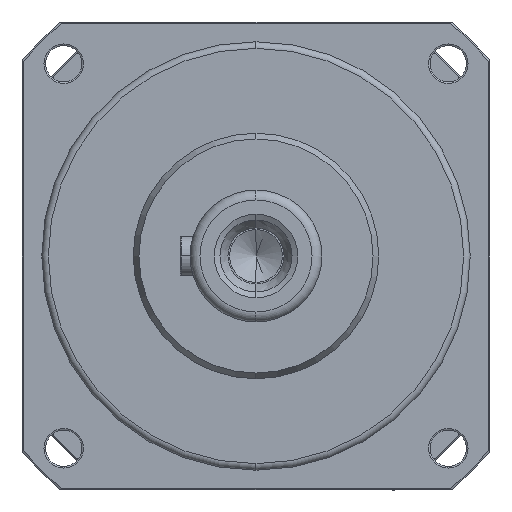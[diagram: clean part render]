
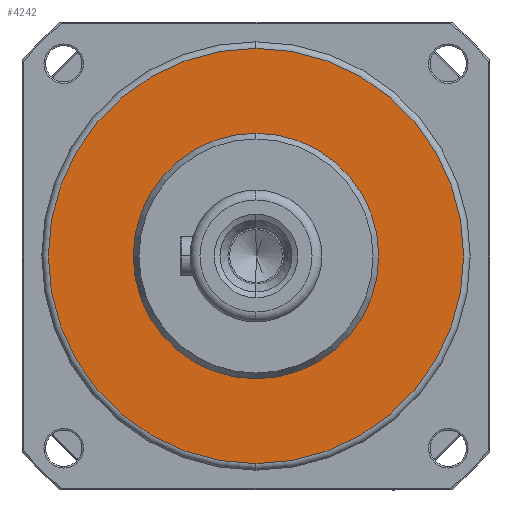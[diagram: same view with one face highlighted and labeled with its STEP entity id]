
A CAD part, left-side view. The second image highlights one B-rep face of the part: STEP entity #4242.
In plain terms, the highlighted planar face has unit normal (-1, 0, 0).
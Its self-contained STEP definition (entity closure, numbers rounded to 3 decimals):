
#423 = VERTEX_POINT ( 'NONE', #6996 ) ;
#1061 = DIRECTION ( 'NONE',  ( -1., 0., 0. ) ) ;
#1117 = CIRCLE ( 'NONE', #9494, 37.25 ) ;
#1197 = DIRECTION ( 'NONE',  ( 1., 0., 0. ) ) ;
#1305 = EDGE_LOOP ( 'NONE', ( #5215, #2292 ) ) ;
#1768 = CARTESIAN_POINT ( 'NONE',  ( -87.98, 18.361, 63. ) ) ;
#1931 = DIRECTION ( 'NONE',  ( 0., 0., -1. ) ) ;
#2019 = CARTESIAN_POINT ( 'NONE',  ( -87.98, 18.361, 0. ) ) ;
#2046 = CIRCLE ( 'NONE', #8914, 63. ) ;
#2292 = ORIENTED_EDGE ( 'NONE', *, *, #11292, .F. ) ;
#2471 = FACE_OUTER_BOUND ( 'NONE', #10551, .T. ) ;
#2771 = ORIENTED_EDGE ( 'NONE', *, *, #3067, .T. ) ;
#3067 = EDGE_CURVE ( 'NONE', #423, #7478, #10399, .T. ) ;
#3782 = EDGE_CURVE ( 'NONE', #5235, #4492, #1117, .T. ) ;
#3975 = CARTESIAN_POINT ( 'NONE',  ( -87.98, 18.361, 0. ) ) ;
#4242 = ADVANCED_FACE ( 'NONE', ( #2471, #4453 ), #9365, .F. ) ;
#4316 = AXIS2_PLACEMENT_3D ( 'NONE', #2019, #7339, #10960 ) ;
#4453 = FACE_BOUND ( 'NONE', #1305, .T. ) ;
#4492 = VERTEX_POINT ( 'NONE', #8833 ) ;
#4899 = DIRECTION ( 'NONE',  ( -1., 0., 0. ) ) ;
#5215 = ORIENTED_EDGE ( 'NONE', *, *, #3782, .F. ) ;
#5235 = VERTEX_POINT ( 'NONE', #5830 ) ;
#5655 = CARTESIAN_POINT ( 'NONE',  ( -87.98, 18.361, 0. ) ) ;
#5675 = CARTESIAN_POINT ( 'NONE',  ( -87.98, 55.611, 0. ) ) ;
#5830 = CARTESIAN_POINT ( 'NONE',  ( -87.98, 18.361, -37.25 ) ) ;
#6709 = DIRECTION ( 'NONE',  ( 0., 0., 1. ) ) ;
#6996 = CARTESIAN_POINT ( 'NONE',  ( -87.98, 18.361, -63. ) ) ;
#7324 = DIRECTION ( 'NONE',  ( -1., 0., 0. ) ) ;
#7339 = DIRECTION ( 'NONE',  ( -1., 0., 0. ) ) ;
#7390 = ORIENTED_EDGE ( 'NONE', *, *, #7670, .T. ) ;
#7478 = VERTEX_POINT ( 'NONE', #1768 ) ;
#7496 = DIRECTION ( 'NONE',  ( 0., 0., -1. ) ) ;
#7670 = EDGE_CURVE ( 'NONE', #7478, #423, #2046, .T. ) ;
#8790 = CIRCLE ( 'NONE', #4316, 37.25 ) ;
#8833 = CARTESIAN_POINT ( 'NONE',  ( -87.98, 18.361, 37.25 ) ) ;
#8914 = AXIS2_PLACEMENT_3D ( 'NONE', #10982, #7324, #1931 ) ;
#9365 = PLANE ( 'NONE',  #11321 ) ;
#9494 = AXIS2_PLACEMENT_3D ( 'NONE', #3975, #4899, #6709 ) ;
#10377 = DIRECTION ( 'NONE',  ( 0., 0., -1. ) ) ;
#10399 = CIRCLE ( 'NONE', #11237, 63. ) ;
#10551 = EDGE_LOOP ( 'NONE', ( #2771, #7390 ) ) ;
#10960 = DIRECTION ( 'NONE',  ( 0., 0., 1. ) ) ;
#10982 = CARTESIAN_POINT ( 'NONE',  ( -87.98, 18.361, 0. ) ) ;
#11237 = AXIS2_PLACEMENT_3D ( 'NONE', #5655, #1061, #10377 ) ;
#11292 = EDGE_CURVE ( 'NONE', #4492, #5235, #8790, .T. ) ;
#11321 = AXIS2_PLACEMENT_3D ( 'NONE', #5675, #1197, #7496 ) ;
